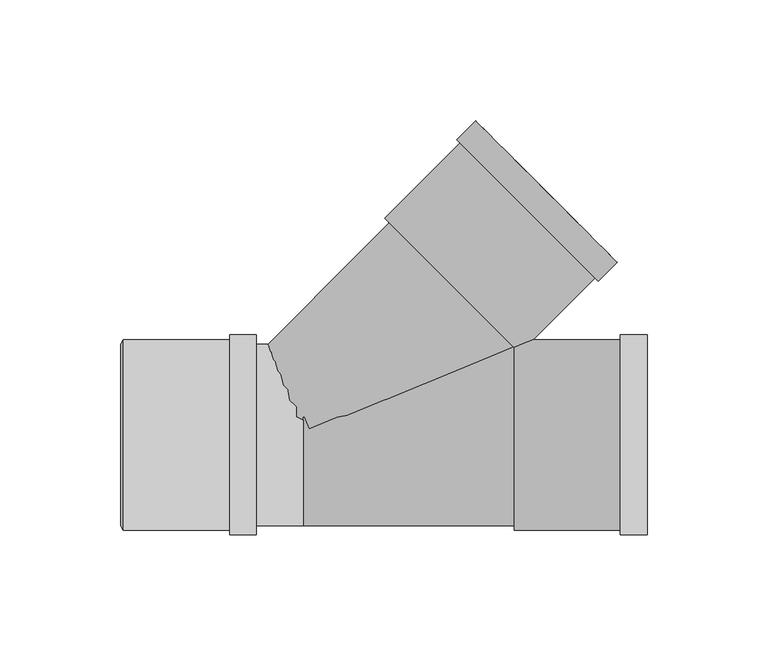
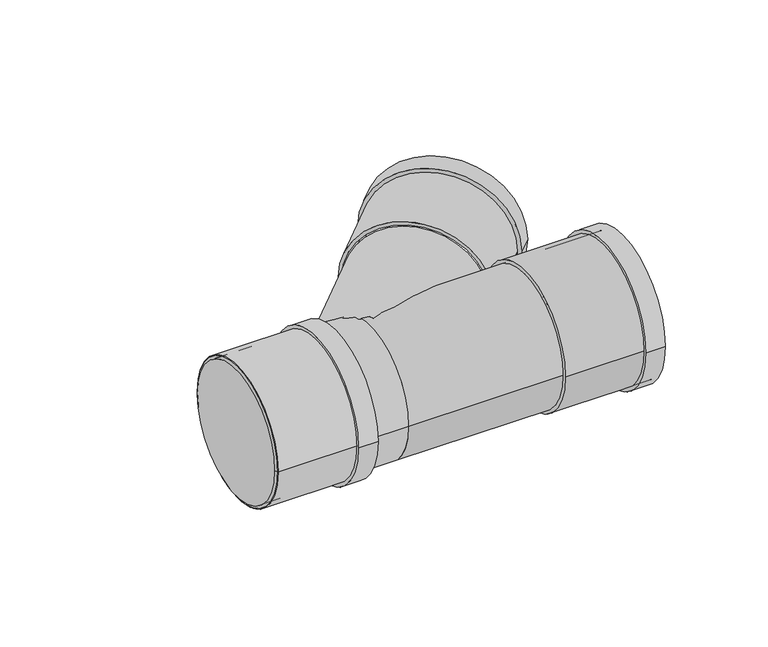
"""IFC4 building model written with IfcOpenShell, lengths in millimetres: pipe fitting geometry, Superdrain HTEA Branch : Superdrain HTEA Branch."""

from ifc_helpers import new_model, si_unit, point, frame, origin, origin_2d, place, context, project, spatial, polyline, circle_curve, trimmed, segment, composite_curve, outline, extrude, source, transform, mapped, element, save
from ifc_brep_helpers import plane_surface, cylinder_surface, revolved_surface, advanced_brep


def pipe_fitting_0ca0ca97(model_context):
    return source(origin(), model_context, "Body", "SolidModel", [
        extrude(outline(composite_curve([segment(trimmed(circle_curve(origin_2d(), 39.375), [point((39.375, 0.0))], [point((-39.375, 0.0))], False, "CARTESIAN"), True, "CONTINUOUS"), segment(trimmed(circle_curve(origin_2d(), 39.375), [point((-39.375, 0.0))], [point((39.375, 0.0))], False, "CARTESIAN"), True, "CONTINUOUS")], self_intersect=False), holes=[composite_curve([segment(trimmed(circle_curve(origin_2d(), 37.5), [point((37.5, 0.0))], [point((-37.5, 0.0))], True, "CARTESIAN"), True, "CONTINUOUS"), segment(trimmed(circle_curve(origin_2d(), 37.5), [point((-37.5, 0.0))], [point((37.5, 0.0))], True, "CARTESIAN"), True, "CONTINUOUS")], self_intersect=False)]), frame((-74.3, 0.0, 0.0), z_axis=(1.0, 0.0, 0.0), x_axis=(0.0, 1.0, 0.0)), (0.0, 0.0, 1.0), 55.0),
        extrude(outline(composite_curve([segment(trimmed(circle_curve(origin_2d(), 41.34375), [point((41.34375, 0.0))], [point((-41.34375, 0.0))], False, "CARTESIAN"), True, "CONTINUOUS"), segment(trimmed(circle_curve(origin_2d(), 41.34375), [point((-41.34375, 0.0))], [point((41.34375, 0.0))], False, "CARTESIAN"), True, "CONTINUOUS")], self_intersect=False), holes=[composite_curve([segment(trimmed(circle_curve(origin_2d(), 37.5), [point((37.5, 0.0))], [point((-37.5, 0.0))], True, "CARTESIAN"), True, "CONTINUOUS"), segment(trimmed(circle_curve(origin_2d(), 37.5), [point((-37.5, 0.0))], [point((37.5, 0.0))], True, "CARTESIAN"), True, "CONTINUOUS")], self_intersect=False)]), frame((-30.3, 0.0, 0.0), z_axis=(1.0, 0.0, 0.0), x_axis=(0.0, 1.0, 0.0)), (0.0, 0.0, 1.0), 11.0),
        advanced_brep(
        [(-75.3, 37.5, 0.0), (-75.3, -37.5, 0.0), (-74.3, 39.375, 0.0), (-74.3, -39.375, 0.0)],
        [
            (0, 1, circle_curve(frame((-75.3, 0.0, 0.0), z_axis=(-1.0, 0.0, 0.0), x_axis=(0.0, 1.0000000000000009, 0.0)), 37.5)),
            (1, 0, circle_curve(frame((-75.3, 0.0, 0.0), z_axis=(-1.0, 0.0, 0.0), x_axis=(0.0, -1.0000000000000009, 0.0)), 37.5)),
            (2, 3, circle_curve(frame((-74.3, 0.0, 0.0), z_axis=(1.0, 0.0, 0.0), x_axis=(0.0, -1.0000000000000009, 0.0)), 39.375)),
            (3, 2, circle_curve(frame((-74.3, 0.0, 0.0), z_axis=(1.0, 0.0, 0.0), x_axis=(0.0, 1.0000000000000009, 0.0)), 39.375)),
            (3, 1),
            (0, 2),
        ],
        [
            plane_surface(frame((-75.3, 0.0, 0.0), z_axis=(-1.0, 0.0, 0.0), x_axis=(0.0, 0.0, -1.0))),
            plane_surface(frame((-74.3, 0.0, 0.0), z_axis=(1.0, 0.0, 0.0), x_axis=(0.0, 0.0, -1.0))),
            revolved_surface(polyline([(-75.3, 37.49999999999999, 0.0), (-74.3, 39.375, 0.0)]), (-95.3, 0.0, 0.0), (1.0000000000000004, 0.0, 0.0)),
            revolved_surface(polyline([(-75.3, -37.49999999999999, 0.0), (-74.3, -39.375, 0.0)]), (-95.3, 0.0, 0.0), (1.0000000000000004, 0.0, 0.0)),
        ],
        [
            (0, [[1, 2]]),
            (1, [[3, 4]]),
            (2, [[-4, 5, -1, 6]]),
            (3, [[-3, -6, -2, -5]]),
        ],
    ),
        advanced_brep(
        [(87.2, -39.375, 0.0), (87.2, 39.375, 0.0), (142.2, -39.375, 0.0), (142.2, 39.375, 0.0), (142.2, -37.5, 0.0), (142.2, 37.5, 0.0), (88.2, -37.5, 0.0), (88.2, 37.5, 0.0)],
        [
            (0, 1, circle_curve(frame((87.2, 0.0, 0.0), z_axis=(-1.0, 0.0, 0.0), x_axis=(0.0, 1.0, 0.0)), 39.375)),
            (1, 0, circle_curve(frame((87.2, 0.0, 0.0), z_axis=(-1.0, 0.0, 0.0), x_axis=(0.0, 1.0, 0.0)), 39.375)),
            (2, 3, circle_curve(frame((142.2, 0.0, 0.0), z_axis=(1.0, 0.0, 0.0), x_axis=(0.0, 1.0, 0.0)), 39.375)),
            (3, 2, circle_curve(frame((142.2, 0.0, 0.0), z_axis=(1.0, 0.0, 0.0), x_axis=(0.0, 1.0, 0.0)), 39.375)),
            (4, 5, circle_curve(frame((142.2, 0.0, 0.0), z_axis=(-1.0, 0.0, 0.0), x_axis=(0.0, 1.0, 0.0)), 37.5)),
            (5, 4, circle_curve(frame((142.2, 0.0, 0.0), z_axis=(-1.0, 0.0, 0.0), x_axis=(0.0, 1.0, 0.0)), 37.5)),
            (0, 2),
            (3, 1),
            (6, 7, circle_curve(frame((88.2, 0.0, 0.0), z_axis=(-1.0, 0.0, 0.0), x_axis=(0.0, 1.0, 0.0)), 37.5)),
            (7, 5),
            (4, 6),
            (7, 6, circle_curve(frame((88.2, 0.0, 0.0), z_axis=(-1.0, 0.0, 0.0), x_axis=(0.0, 1.0, 0.0)), 37.5)),
        ],
        [
            plane_surface(frame((87.2, 0.0, 0.0), z_axis=(-1.0, 0.0, 0.0), x_axis=(0.0, 0.0, 1.0))),
            plane_surface(frame((142.2, 0.0, 0.0), z_axis=(1.0, 0.0, 0.0), x_axis=(0.0, 0.0, 1.0))),
            cylinder_surface(frame((87.2, 0.0, 0.0), z_axis=(-1.0, 0.0, 0.0), x_axis=(0.0, 1.0, 0.0)), 39.375),
            revolved_surface(polyline([(88.2, 37.5, 0.0), (142.2, 37.5, 0.0)]), (88.2, 0.0, 0.0), (-1.0, 0.0, 0.0)),
            plane_surface(frame((88.2, 0.0, 0.0), z_axis=(1.0, 0.0, 0.0), x_axis=(0.0, 0.0, 1.0))),
        ],
        [
            (0, [[1, 2]]),
            (1, [[3, 4], [5, 6]]),
            (2, [[-1, 7, -4, 8]]),
            (2, [[-2, -8, -3, -7]]),
            (3, [[9, 10, -5, 11]]),
            (3, [[12, -11, -6, -10]]),
            (4, [[-12, -9]]),
        ],
    ),
        extrude(outline(composite_curve([segment(trimmed(circle_curve(origin_2d(), 41.34375), [point((41.34375, 0.0))], [point((-41.34375, 0.0))], False, "CARTESIAN"), True, "CONTINUOUS"), segment(trimmed(circle_curve(origin_2d(), 41.34375), [point((-41.34375, 0.0))], [point((41.34375, 0.0))], False, "CARTESIAN"), True, "CONTINUOUS")], self_intersect=False), holes=[composite_curve([segment(trimmed(circle_curve(origin_2d(), 37.5), [point((37.5, 0.0))], [point((-37.5, 0.0))], True, "CARTESIAN"), True, "CONTINUOUS"), segment(trimmed(circle_curve(origin_2d(), 37.5), [point((-37.5, 0.0))], [point((37.5, 0.0))], True, "CARTESIAN"), True, "CONTINUOUS")], self_intersect=False)]), frame((131.2, 0.0, 0.0), z_axis=(1.0, 0.0, 0.0), x_axis=(0.0, 1.0, 0.0)), (0.0, 0.0, 1.0), 11.0),
        extrude(outline(composite_curve([segment(trimmed(circle_curve(origin_2d(), 36.75), [point((0.0, 36.75))], [point((0.0, -36.75))], False, "CARTESIAN"), True, "CONTINUOUS"), segment(trimmed(circle_curve(origin_2d(), 36.75), [point((0.0, -36.75))], [point((0.0, 36.75))], False, "CARTESIAN"), True, "CONTINUOUS")], self_intersect=False)), frame((0.0, 0.0, 0.0), z_axis=(0.7071067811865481, 0.7071067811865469, 0.0), x_axis=(0.0, 0.0, 1.0)), (0.0, 0.0, 1.0), 87.2),
        extrude(outline(composite_curve([segment(trimmed(circle_curve(origin_2d(), 37.5), [point((37.5, 0.0))], [point((-37.5, 0.0))], False, "CARTESIAN"), True, "CONTINUOUS"), segment(trimmed(circle_curve(origin_2d(), 37.5), [point((-37.5, 0.0))], [point((37.5, 0.0))], False, "CARTESIAN"), True, "CONTINUOUS")], self_intersect=False)), frame((-74.3, 0.0, 0.0), z_axis=(1.0, 0.0, 0.0), x_axis=(0.0, 1.0, 0.0)), (0.0, 0.0, 1.0), 74.3),
        extrude(outline(composite_curve([segment(trimmed(circle_curve(origin_2d(), 37.5), [point((-37.5, 0.0))], [point((37.5, 0.0))], False, "CARTESIAN"), True, "CONTINUOUS"), segment(trimmed(circle_curve(origin_2d(), 37.5), [point((37.5, 0.0))], [point((-37.5, 0.0))], False, "CARTESIAN"), True, "CONTINUOUS")], self_intersect=False)), frame((0.0, 0.0, 0.0), z_axis=(1.0, 0.0, 0.0), x_axis=(0.0, 1.0, 0.0)), (0.0, 0.0, 1.0), 87.2),
        extrude(outline(composite_curve([segment(trimmed(circle_curve(origin_2d(), 41.34375), [point((0.0, 41.34375))], [point((0.0, -41.34375))], False, "CARTESIAN"), True, "CONTINUOUS"), segment(trimmed(circle_curve(origin_2d(), 41.34375), [point((0.0, -41.34375))], [point((0.0, 41.34375))], False, "CARTESIAN"), True, "CONTINUOUS")], self_intersect=False), holes=[composite_curve([segment(trimmed(circle_curve(origin_2d(), 37.5), [point((0.0, 37.5))], [point((0.0, -37.5))], True, "CARTESIAN"), True, "CONTINUOUS"), segment(trimmed(circle_curve(origin_2d(), 37.5), [point((0.0, -37.5))], [point((0.0, 37.5))], True, "CARTESIAN"), True, "CONTINUOUS")], self_intersect=False)]), frame((92.7724097, 92.7724097, 0.0), z_axis=(0.7071067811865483, 0.7071067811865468, 0.0), x_axis=(0.0, 0.0, 1.0)), (0.0, 0.0, 1.0), 11.0),
        extrude(outline(composite_curve([segment(trimmed(circle_curve(origin_2d(), 39.375), [point((0.0, 39.375))], [point((0.0, -39.375))], False, "CARTESIAN"), True, "CONTINUOUS"), segment(trimmed(circle_curve(origin_2d(), 39.375), [point((0.0, -39.375))], [point((0.0, 39.375))], False, "CARTESIAN"), True, "CONTINUOUS")], self_intersect=False), holes=[composite_curve([segment(trimmed(circle_curve(origin_2d(), 37.5), [point((0.0, 37.5))], [point((0.0, -37.5))], True, "CARTESIAN"), True, "CONTINUOUS"), segment(trimmed(circle_curve(origin_2d(), 37.5), [point((0.0, -37.5))], [point((0.0, 37.5))], True, "CARTESIAN"), True, "CONTINUOUS")], self_intersect=False)]), frame((61.6597113, 61.6597113, 0.0), z_axis=(0.7071067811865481, 0.7071067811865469, 0.0), x_axis=(0.0, 0.0, 1.0)), (0.0, 0.0, 1.0), 55.0),
    ])


if __name__ == "__main__":
    model = new_model("IFC4")
    model_context = context("Model", 3, world=origin())
    ifc_project = project(units=[si_unit("LENGTHUNIT", "METRE", prefix="MILLI")], contexts=[model_context])
    site = spatial("IfcSite", under=ifc_project)
    building = spatial("IfcBuilding", under=site)
    placement = place(None, origin())
    pipe_fitting_shape = pipe_fitting_0ca0ca97(model_context)
    element("IfcPipeFitting", 1, ObjectType="Superdrain HTEA Branch : Superdrain HTEA Branch", at=placement, inside=building, context=model_context, shape_type="MappedRepresentation", body=[
        mapped(pipe_fitting_shape, transform((0.0, 0.0, 0.0), x_axis=(1.0, 0.0, 0.0), y_axis=(0.0, 1.0, 0.0), z_axis=(0.0, 0.0, 1.0))),
    ])
    save(model, "model.ifc")
